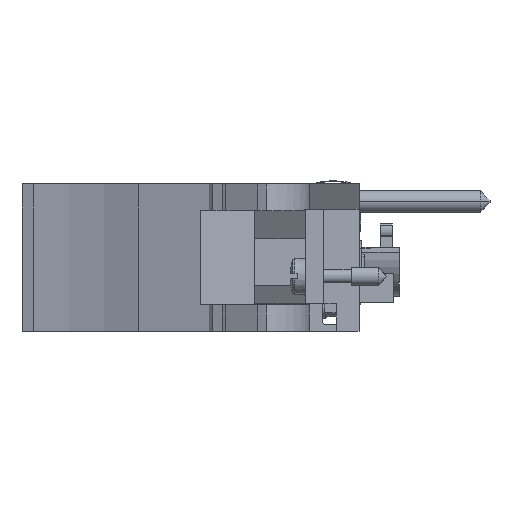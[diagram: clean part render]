
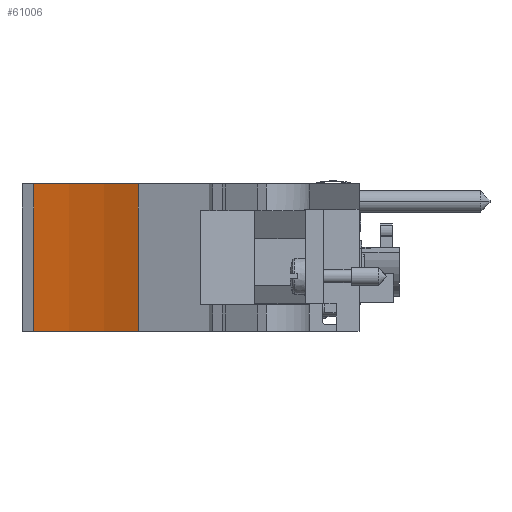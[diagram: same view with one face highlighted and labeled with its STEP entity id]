
A CAD part, front view. The second image highlights one B-rep face of the part: STEP entity #61006.
In plain terms, the highlighted cylindrical face has radius 51.46 mm (diameter 102.919 mm), a partial arc.
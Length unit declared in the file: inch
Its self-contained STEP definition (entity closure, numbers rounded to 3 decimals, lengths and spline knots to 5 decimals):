
#50152=CARTESIAN_POINT('',(-1.96972,-5.94993,0.702));
#50153=DIRECTION('',(0.,0.,1.));
#50154=DIRECTION('',(0.435,0.9,0.));
#50155=AXIS2_PLACEMENT_3D('',#50152,#50153,#50154);
#50473=CARTESIAN_POINT('',(-1.96972,-5.94993,-0.086));
#50474=DIRECTION('',(0.,0.,1.));
#50475=DIRECTION('',(0.435,0.9,0.));
#50476=AXIS2_PLACEMENT_3D('',#50473,#50474,#50475);
#50631=DIRECTION('',(0.,0.,1.));
#50632=VECTOR('',#50631,0.788);
#50633=CARTESIAN_POINT('',(-1.64639,-3.94993,-0.086));
#50634=LINE('',#50633,#50632);
#50639=DIRECTION('',(0.,0.,1.));
#50640=VECTOR('',#50639,0.788);
#50641=CARTESIAN_POINT('',(-1.08842,-4.12569,-0.086));
#50642=LINE('',#50641,#50640);
#58173=CARTESIAN_POINT('',(-1.08842,-4.12569,-0.086));
#58174=CARTESIAN_POINT('',(-1.64639,-3.94993,-0.086));
#58175=VERTEX_POINT('',#58173);
#58176=VERTEX_POINT('',#58174);
#58177=CARTESIAN_POINT('',(-1.08842,-4.12569,0.702));
#58178=CARTESIAN_POINT('',(-1.64639,-3.94993,0.702));
#58179=VERTEX_POINT('',#58177);
#58180=VERTEX_POINT('',#58178);
#60994=CARTESIAN_POINT('',(-1.96972,-5.94993,0.702));
#60995=DIRECTION('',(0.,0.,1.));
#60996=DIRECTION('',(0.,1.,0.));
#60997=AXIS2_PLACEMENT_3D('',#60994,#60995,#60996);
#60998=CYLINDRICAL_SURFACE('',#60997,2.02597);
#60999=ORIENTED_EDGE('',*,*,#60839,.T.);
#61000=ORIENTED_EDGE('',*,*,#60986,.T.);
#61001=ORIENTED_EDGE('',*,*,#60469,.F.);
#61003=ORIENTED_EDGE('',*,*,#61002,.F.);
#61004=EDGE_LOOP('',(#60999,#61000,#61001,#61003));
#61005=FACE_OUTER_BOUND('',#61004,.F.);
#61006=ADVANCED_FACE('',(#61005),#60998,.F.);
#50156=CIRCLE('',#50155,2.02597);
#50477=CIRCLE('',#50476,2.02597);
#60469=EDGE_CURVE('',#58179,#58180,#50156,.T.);
#60839=EDGE_CURVE('',#58175,#58176,#50477,.T.);
#60986=EDGE_CURVE('',#58176,#58180,#50634,.T.);
#61002=EDGE_CURVE('',#58175,#58179,#50642,.T.);
